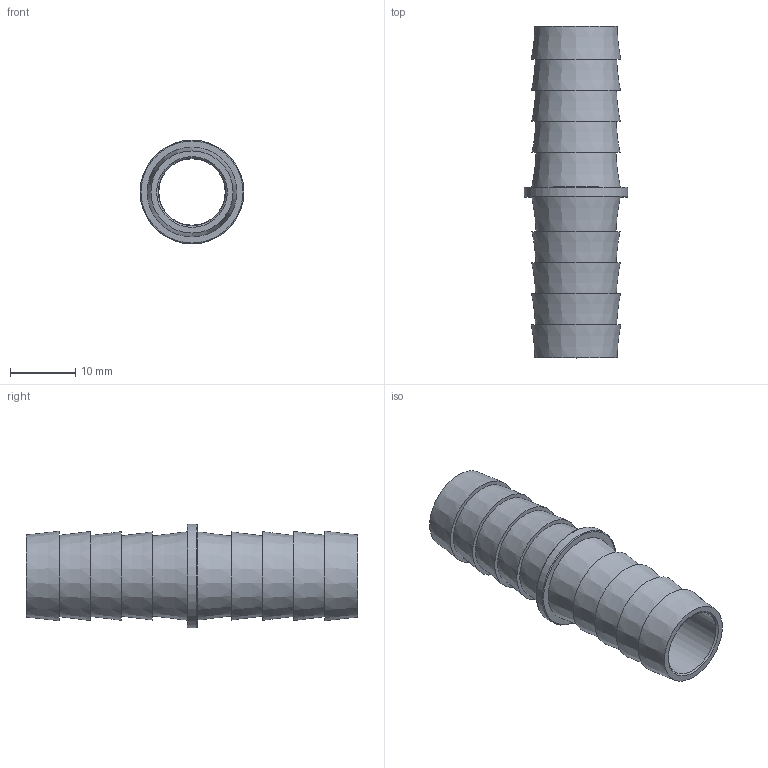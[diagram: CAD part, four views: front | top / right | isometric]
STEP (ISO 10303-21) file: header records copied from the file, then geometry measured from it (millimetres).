
FILE_DESCRIPTION(/* description */ (''),/* implementation_level */ '2;1');
FILE_NAME(/* name */ 'C:/Users/drich/Desktop/HS-50 v1.step',/* time_stamp */ '2020-02-09T10:52:28-06:00',/* author */ (''),/* organization */ (''),/* preprocessor_version */ 'ST-DEVELOPER v18',/* originating_system */ 'Autodesk Translation Framework v8.12.0.6',/* authorisation */ '');
FILE_SCHEMA (('AUTOMOTIVE_DESIGN { 1 0 10303 214 3 1 1 }'));
Length unit declared in the file: inch
Products named in the file (2): HS-50; 50 BARB ONLY
Assembly tree (2 placements, depth 2):
  HS-50
    50 BARB ONLY  x2
Bounding box: 15.88 x 50.82 x 15.88 mm (x, y, z)
Volume: 2589.2 mm3; surface area: 4375.7 mm2
Topology: 3 solids, 3 shells, 32 faces, 82 edges, 62 vertices
Faces by surface type: cone 14, plane 12, cylinder 4, torus 2
Full cylindrical faces by diameter (mm): 10.16 x1, 10.312 x2, 15.875 x1
Entity records: 705 total; most frequent: DIRECTION 134, CARTESIAN_POINT 109, ORIENTED_EDGE 98, AXIS2_PLACEMENT_3D 62, EDGE_CURVE 49, CIRCLE 39, VERTEX_POINT 37, EDGE_LOOP 26
